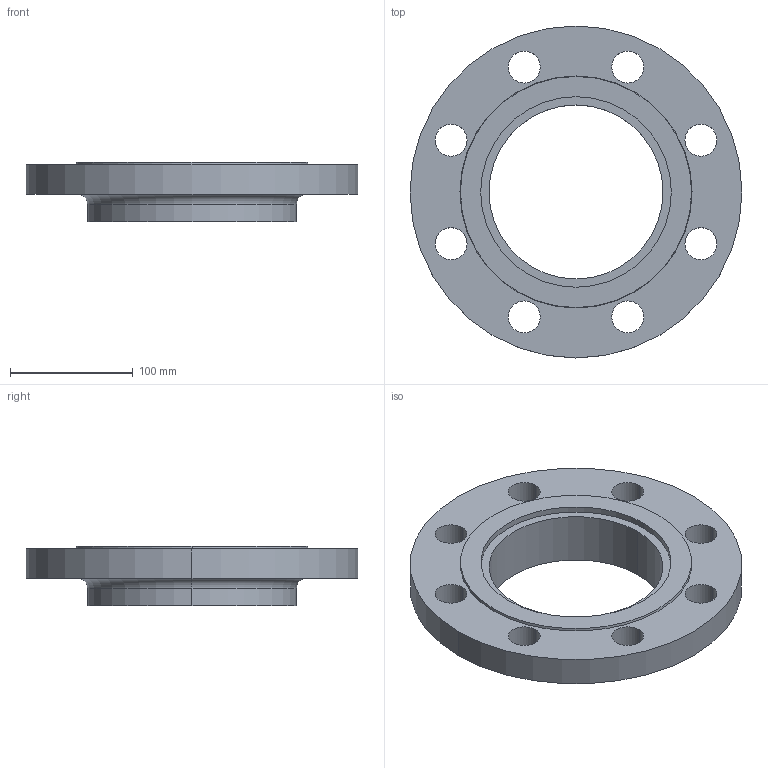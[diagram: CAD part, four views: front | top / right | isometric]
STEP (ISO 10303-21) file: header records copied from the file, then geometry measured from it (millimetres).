
FILE_DESCRIPTION (( 'STEP AP214' ), '1' );
FILE_NAME ('PN40 DN125 Type 12 - Type G Face.STEP', '2019-01-02T02:11:05', ( '' ), ( '' ), 'SwSTEP 2.0', 'SolidWorks 2019', '' );
FILE_SCHEMA (( 'AUTOMOTIVE_DESIGN' ));
Length unit declared in the file: millimetre
Products named in the file (1): PN40 DN125 Type 12 - Type G Face
Bounding box: 270 x 270 x 48 mm (x, y, z)
Volume: 1064226.8 mm3; surface area: 143092.7 mm2
Topology: 1 solids, 1 shells, 33 faces, 82 edges, 54 vertices
Faces by surface type: cylinder 24, plane 5, torus 2, cone 2
Entity records: 1086 total; most frequent: DIRECTION 206, CARTESIAN_POINT 170, ORIENTED_EDGE 164, AXIS2_PLACEMENT_3D 90, EDGE_CURVE 82, CIRCLE 56, EDGE_LOOP 54, VERTEX_POINT 54
